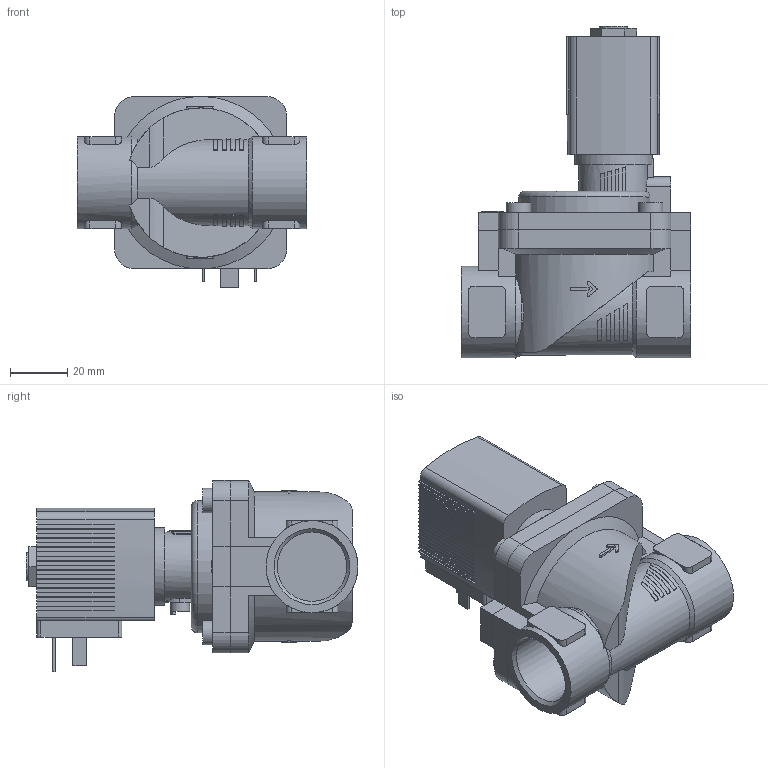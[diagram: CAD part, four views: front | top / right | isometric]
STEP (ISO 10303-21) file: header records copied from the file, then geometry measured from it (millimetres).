
FILE_DESCRIPTION(/* description */ ('STEP AP214'),/* implementation_level */ '2;1');
FILE_NAME(/* name */ '6281-350978-2_2-Way_Solenoid_Valve__Servo-assisted__General_Purpose',/* time_stamp */ '2024-05-26T21:41:37+02:00',/* author */ ('License CC BY-ND 4.0'),/* organization */ ('CADENAS'),/* preprocessor_version */ 'ST-DEVELOPER v19.3',/* originating_system */ 'PARTsolutions',/* authorisation */ ' ');
FILE_SCHEMA (('AUTOMOTIVE_DESIGN {1 0 10303 214 3 1 1}'));
Length unit declared in the file: millimetre
Products named in the file (4): 6281-350978-2/2-Way Solenoid Valve, Servo-assisted, General Purpose; 5281ev201MS2/2-Wege-Magnetventil mit Servomembran-Deckel   ; 6213-20G3/4MS-Gehaeuse-; AC10ex-5OO-Plan-Coil
Assembly tree (3 placements, depth 2):
  6281-350978-2/2-Way Solenoid Valve, Servo-assisted, General Purpose
    5281ev201MS2/2-Wege-Magnetventil mit Servomembran-Deckel   
    6213-20G3/4MS-Gehaeuse-
    AC10ex-5OO-Plan-Coil
Bounding box: 80 x 115.5 x 66.5 mm (x, y, z)
Volume: 197808.8 mm3; surface area: 43274.2 mm2
Topology: 3 solids, 3 shells, 548 faces, 1511 edges, 1002 vertices
Faces by surface type: plane 442, cylinder 90, cone 15, torus 1
Full cylindrical faces by diameter (mm): 2.013 x1, 6.8 x1, 8.5 x4, 9.74 x1, 24.117 x2, 27 x1, 32 x1
Entity records: 20131 total; most frequent: CARTESIAN_POINT 3288, ORIENTED_EDGE 2978, DIRECTION 2858, EDGE_CURVE 1489, LINE 1094, VECTOR 1094, VERTEX_POINT 994, AXIS2_PLACEMENT_3D 882
